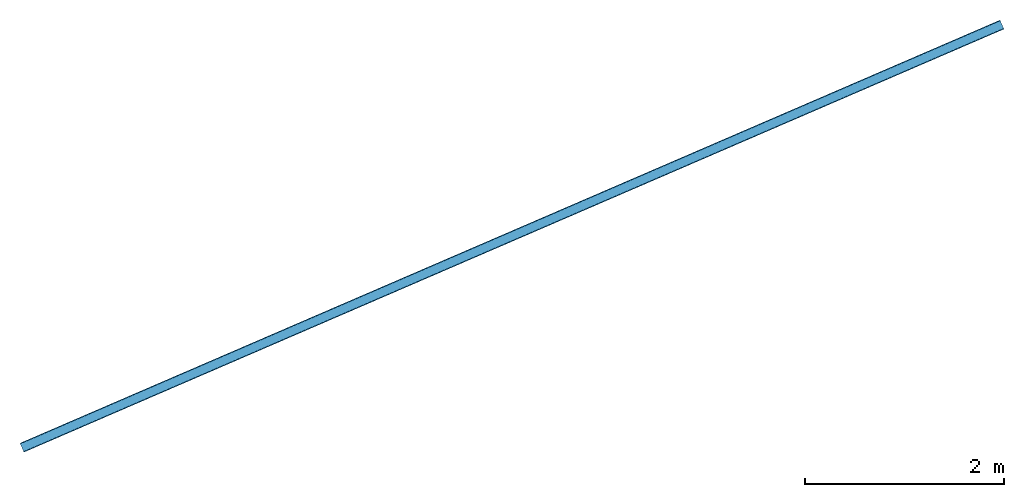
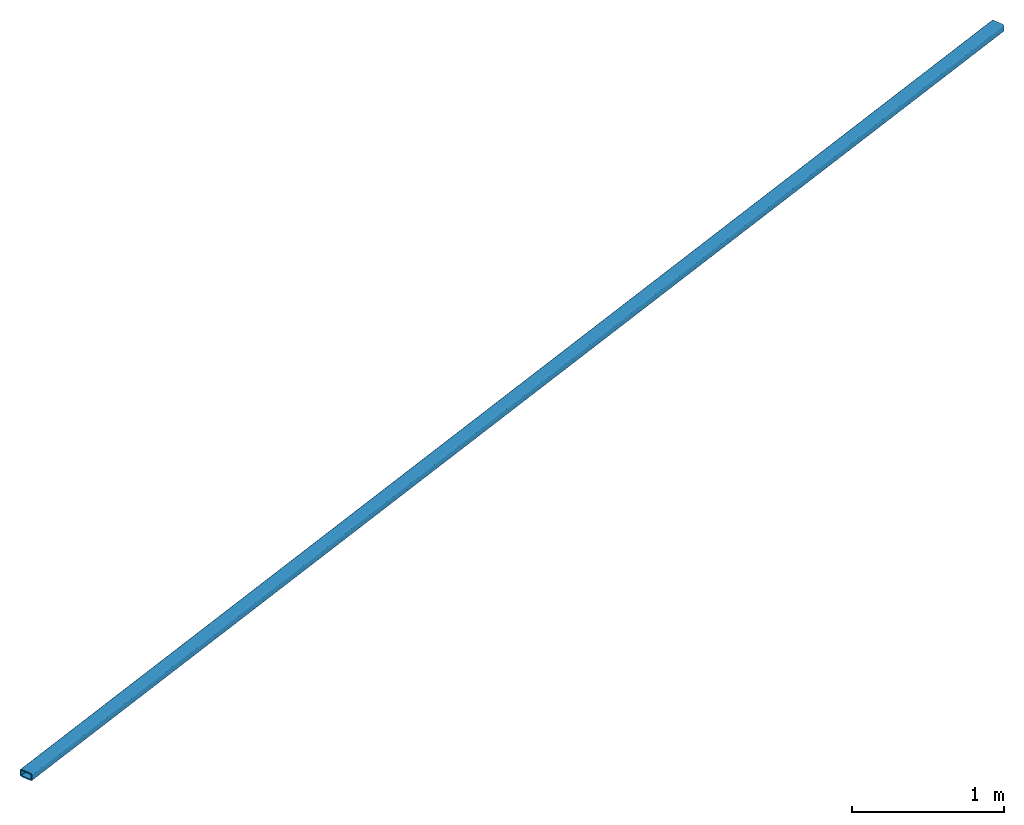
# One storey: 1 beam.
"""IFC4 building model written with IfcOpenShell, lengths in metres."""

from ifc_helpers import new_model, entity, si_unit, converted_unit, derived_unit, direction, frame, origin, place, context, subcontext, project, spatial, line, arc, indexed_curve, outline, extrude, source, transform, mapped, material, type_object, type_shapes, element, save


model = new_model("IFC4")

# Units and contexts
model_context = context("Model", 3, precision=1e-05, world=origin(), true_north=direction((6.12323399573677e-17, 1.0)))
body_context = subcontext(model_context, "Body", "Model", "MODEL_VIEW")
ifc_project = project(units=[si_unit("LENGTHUNIT", "METRE"), si_unit("AREAUNIT", "SQUARE_METRE"), si_unit("VOLUMEUNIT", "CUBIC_METRE"), converted_unit("PLANEANGLEUNIT", "DEGREE", entity("IfcPlaneAngleMeasure", 0.0174532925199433), si_unit("PLANEANGLEUNIT", "RADIAN"), dimensions=[0, 0, 0, 0, 0, 0, 0]), si_unit("MASSUNIT", "GRAM", prefix="KILO"), derived_unit("MOMENTOFINERTIAUNIT", [(si_unit("LENGTHUNIT", "METRE"), 4)]), derived_unit("LINEARFORCEUNIT", [(si_unit("MASSUNIT", "GRAM", prefix="KILO"), 1), (si_unit("TIMEUNIT", "SECOND"), -2)]), derived_unit("THERMALTRANSMITTANCEUNIT", [(si_unit("MASSUNIT", "GRAM", prefix="KILO"), 1), (si_unit("THERMODYNAMICTEMPERATUREUNIT", "KELVIN"), -1), (si_unit("TIMEUNIT", "SECOND"), -3)]), derived_unit("USERDEFINED", [(si_unit("MASSUNIT", "GRAM", prefix="KILO"), 1), (si_unit("TIMEUNIT", "SECOND"), -2), (si_unit("THERMODYNAMICTEMPERATUREUNIT", "KELVIN"), -1)]), derived_unit("THERMALRESISTANCEUNIT", [(si_unit("MASSUNIT", "GRAM", prefix="KILO"), -1), (si_unit("TIMEUNIT", "SECOND"), 3), (si_unit("THERMODYNAMICTEMPERATUREUNIT", "KELVIN"), 1)])], contexts=[model_context])

# Site, building, storey
site_placement = place(None, origin())
site = spatial("IfcSite", under=ifc_project, at=site_placement, Name="Default", CompositionType="ELEMENT")
building_placement = place(site_placement, frame((4.92348780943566, -84.5603392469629, 320.975), z_axis=(0.0, 0.0, 1.0), x_axis=(-0.396377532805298, 0.918087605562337, 0.0)))
building = spatial("IfcBuilding", under=site, at=building_placement, CompositionType="ELEMENT")
storey_placement = place(building_placement, frame((0.0, 0.0, 6.87499999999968)))
storey = spatial("IfcBuildingStorey", under=building, at=storey_placement, Name="Level 3", CompositionType="ELEMENT", Elevation=6.87499999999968)

# Beam
ifc_material = material(Name="Acero, 45-345", Category="Metal")
beam_type = type_object("IfcBeamType", Name="M_HSS Cuadrado:10x6", PredefinedType="BEAM", material=ifc_material)
shared_shape = source(origin(), body_context, "Body", "SweptSolid", [
    extrude(outline(indexed_curve([(-0.017, -0.0500000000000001), (0.0169999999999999, -0.0500000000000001), (0.026192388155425, -0.0461923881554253), (0.03, -0.0370000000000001), (0.03, 0.0370000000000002), (0.026192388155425, 0.0461923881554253), (0.017, 0.0500000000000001), (-0.017, 0.0500000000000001), (-0.0261923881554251, 0.0461923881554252), (-0.03, 0.0370000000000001), (-0.03, -0.0370000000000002), (-0.026192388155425, -0.0461923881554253)], segments=[line(1, 2), arc(2, 3, 4), line(4, 5), arc(5, 6, 7), line(7, 8), arc(8, 9, 10), line(10, 11), arc(11, 12, 1)], self_intersect=False), holes=[indexed_curve([(-0.0204700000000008, 0.0369999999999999), (-0.0194536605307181, 0.0394536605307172), (-0.0170000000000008, 0.0404699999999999), (0.0169999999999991, 0.0404699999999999), (0.0194536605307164, 0.0394536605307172), (0.0204699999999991, 0.0369999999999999), (0.0204699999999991, -0.0369999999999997), (0.0194536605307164, -0.039453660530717), (0.0169999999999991, -0.0404699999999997), (-0.0170000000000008, -0.0404699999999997), (-0.0194536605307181, -0.039453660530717), (-0.0204700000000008, -0.0369999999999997)], segments=[arc(1, 2, 3), line(3, 4), arc(4, 5, 6), line(6, 7), arc(7, 8, 9), line(9, 10), arc(10, 11, 12), line(12, 1)], self_intersect=False)]), frame((-5.3575, 0.0, 0.0), z_axis=(1.0, 0.0, 0.0), x_axis=(0.0, 0.0, -1.0)), (0.0, 0.0, 1.0), 10.715),
])
type_shapes(beam_type, [shared_shape])
beam_placement = place(storey_placement, frame((-2.07683941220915, 0.323736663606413, -0.0299999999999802), z_axis=(0.0, 0.0, 1.0), x_axis=(0.0, 1.0, 0.0)))
element("IfcBeam", 1, at=beam_placement, inside=storey, type_object=beam_type, Name="M_HSS Cuadrado:10x6", ObjectType="M_HSS Cuadrado:10x6", PredefinedType="BEAM", context=body_context, shape_type="MappedRepresentation", body=[
    mapped(shared_shape, transform((0.0, 0.0, 0.0), scale=1.0)),
])

save(model, "model.ifc")
